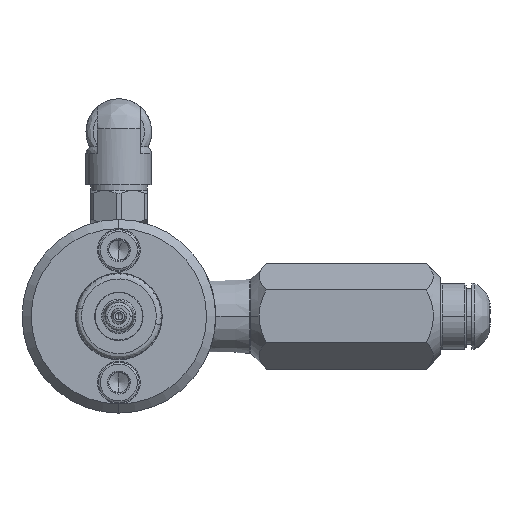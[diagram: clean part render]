
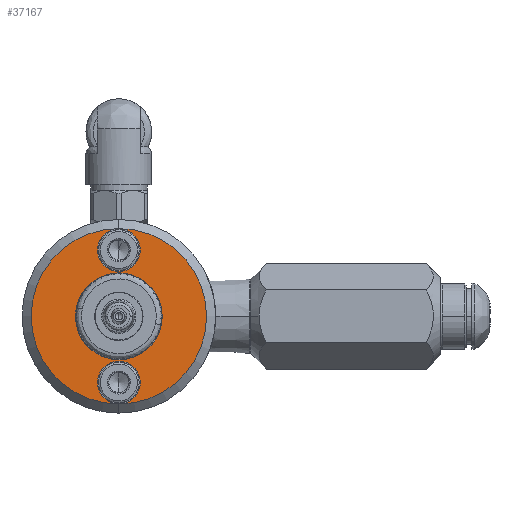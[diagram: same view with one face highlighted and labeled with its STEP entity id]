
A CAD part, front view. The second image highlights one B-rep face of the part: STEP entity #37167.
In plain terms, the highlighted planar face has unit normal (0, -1, 0).
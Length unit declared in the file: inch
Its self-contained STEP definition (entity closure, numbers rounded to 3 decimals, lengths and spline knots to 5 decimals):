
#1439 = CARTESIAN_POINT ( 'NONE',  ( 0., 0.315, 0. ) ) ;
#2063 = EDGE_CURVE ( 'NONE', #3683, #7874, #29381, .T. ) ;
#2823 = EDGE_CURVE ( 'NONE', #52760, #37118, #61757, .T. ) ;
#3683 = VERTEX_POINT ( 'NONE', #10672 ) ;
#4853 = CARTESIAN_POINT ( 'NONE',  ( 0., 0.315, 0. ) ) ;
#4913 = CARTESIAN_POINT ( 'NONE',  ( 0., 0.315, -0.48 ) ) ;
#5255 = CARTESIAN_POINT ( 'NONE',  ( 0., 0.315, 0.3625 ) ) ;
#5444 = ORIENTED_EDGE ( 'NONE', *, *, #49024, .T. ) ;
#6636 = EDGE_CURVE ( 'NONE', #45792, #42086, #31703, .T. ) ;
#7106 = CIRCLE ( 'NONE', #24997, 0.2375 ) ;
#7874 = VERTEX_POINT ( 'NONE', #44579 ) ;
#8700 = AXIS2_PLACEMENT_3D ( 'NONE', #44623, #30111, #34290 ) ;
#9418 = FACE_BOUND ( 'NONE', #24425, .T. ) ;
#10672 = CARTESIAN_POINT ( 'NONE',  ( 0., 0.315, 0.4795 ) ) ;
#11951 = ORIENTED_EDGE ( 'NONE', *, *, #27714, .T. ) ;
#12255 = CARTESIAN_POINT ( 'NONE',  ( 0., 0.315, -0.2375 ) ) ;
#12791 = VERTEX_POINT ( 'NONE', #14147 ) ;
#14147 = CARTESIAN_POINT ( 'NONE',  ( 0., 0.315, 0.48 ) ) ;
#14736 = EDGE_CURVE ( 'NONE', #7874, #3683, #59312, .T. ) ;
#16040 = CARTESIAN_POINT ( 'NONE',  ( 0., 0.315, 0.3625 ) ) ;
#16216 = CARTESIAN_POINT ( 'NONE',  ( 0., 0.315, 0.2375 ) ) ;
#18052 = EDGE_CURVE ( 'NONE', #37118, #52760, #7106, .T. ) ;
#18673 = AXIS2_PLACEMENT_3D ( 'NONE', #61658, #41249, #26748 ) ;
#18869 = EDGE_LOOP ( 'NONE', ( #36018, #38205 ) ) ;
#19906 = DIRECTION ( 'NONE',  ( 0., 0., -1. ) ) ;
#20755 = DIRECTION ( 'NONE',  ( 0., -1., 0. ) ) ;
#21452 = DIRECTION ( 'NONE',  ( 0., 1., 0. ) ) ;
#23368 = CIRCLE ( 'NONE', #58171, 0.117 ) ;
#24425 = EDGE_LOOP ( 'NONE', ( #34392, #44886 ) ) ;
#24997 = AXIS2_PLACEMENT_3D ( 'NONE', #34874, #44557, #19906 ) ;
#26285 = FACE_OUTER_BOUND ( 'NONE', #38025, .T. ) ;
#26748 = DIRECTION ( 'NONE',  ( 1., 0., 0. ) ) ;
#27188 = PLANE ( 'NONE',  #18673 ) ;
#27714 = EDGE_CURVE ( 'NONE', #12791, #46796, #42081, .T. ) ;
#28573 = AXIS2_PLACEMENT_3D ( 'NONE', #41964, #47094, #31991 ) ;
#28759 = CIRCLE ( 'NONE', #59419, 0.48 ) ;
#29381 = CIRCLE ( 'NONE', #50706, 0.117 ) ;
#30111 = DIRECTION ( 'NONE',  ( 0., -1., 0. ) ) ;
#30392 = CARTESIAN_POINT ( 'NONE',  ( 0., 0.315, -0.4795 ) ) ;
#30714 = DIRECTION ( 'NONE',  ( 0., 1., 0. ) ) ;
#31703 = CIRCLE ( 'NONE', #28573, 0.117 ) ;
#31849 = CARTESIAN_POINT ( 'NONE',  ( 0., 0.315, -0.2455 ) ) ;
#31991 = DIRECTION ( 'NONE',  ( 0., 0., -1. ) ) ;
#34290 = DIRECTION ( 'NONE',  ( 0., 0., 1. ) ) ;
#34392 = ORIENTED_EDGE ( 'NONE', *, *, #18052, .T. ) ;
#34874 = CARTESIAN_POINT ( 'NONE',  ( 0., 0.315, 0. ) ) ;
#35723 = DIRECTION ( 'NONE',  ( 0., 0., -1. ) ) ;
#36018 = ORIENTED_EDGE ( 'NONE', *, *, #14736, .T. ) ;
#37118 = VERTEX_POINT ( 'NONE', #12255 ) ;
#37167 = ADVANCED_FACE ( 'NONE', ( #9418, #57146, #49468, #26285 ), #27188, .T. ) ;
#37813 = ORIENTED_EDGE ( 'NONE', *, *, #49041, .T. ) ;
#38025 = EDGE_LOOP ( 'NONE', ( #11951, #5444 ) ) ;
#38205 = ORIENTED_EDGE ( 'NONE', *, *, #2063, .T. ) ;
#39626 = DIRECTION ( 'NONE',  ( 0., 1., 0. ) ) ;
#39817 = DIRECTION ( 'NONE',  ( 0., 1., 0. ) ) ;
#40544 = DIRECTION ( 'NONE',  ( 0., 0., -1. ) ) ;
#41249 = DIRECTION ( 'NONE',  ( 0., -1., 0. ) ) ;
#41964 = CARTESIAN_POINT ( 'NONE',  ( 0., 0.315, -0.3625 ) ) ;
#42081 = CIRCLE ( 'NONE', #8700, 0.48 ) ;
#42086 = VERTEX_POINT ( 'NONE', #30392 ) ;
#44557 = DIRECTION ( 'NONE',  ( 0., 1., 0. ) ) ;
#44579 = CARTESIAN_POINT ( 'NONE',  ( 0., 0.315, 0.2455 ) ) ;
#44623 = CARTESIAN_POINT ( 'NONE',  ( 0., 0.315, 0. ) ) ;
#44745 = DIRECTION ( 'NONE',  ( 0., 0., -1. ) ) ;
#44886 = ORIENTED_EDGE ( 'NONE', *, *, #2823, .T. ) ;
#45428 = DIRECTION ( 'NONE',  ( 0., 0., 1. ) ) ;
#45792 = VERTEX_POINT ( 'NONE', #31849 ) ;
#46796 = VERTEX_POINT ( 'NONE', #4913 ) ;
#47094 = DIRECTION ( 'NONE',  ( 0., 1., 0. ) ) ;
#49024 = EDGE_CURVE ( 'NONE', #46796, #12791, #28759, .T. ) ;
#49041 = EDGE_CURVE ( 'NONE', #42086, #45792, #23368, .T. ) ;
#49468 = FACE_BOUND ( 'NONE', #59405, .T. ) ;
#49513 = AXIS2_PLACEMENT_3D ( 'NONE', #4853, #39626, #44745 ) ;
#49811 = ORIENTED_EDGE ( 'NONE', *, *, #6636, .T. ) ;
#50706 = AXIS2_PLACEMENT_3D ( 'NONE', #5255, #39817, #63895 ) ;
#52760 = VERTEX_POINT ( 'NONE', #16216 ) ;
#57146 = FACE_BOUND ( 'NONE', #18869, .T. ) ;
#58171 = AXIS2_PLACEMENT_3D ( 'NONE', #60239, #30714, #35723 ) ;
#59312 = CIRCLE ( 'NONE', #61630, 0.117 ) ;
#59405 = EDGE_LOOP ( 'NONE', ( #37813, #49811 ) ) ;
#59419 = AXIS2_PLACEMENT_3D ( 'NONE', #1439, #20755, #45428 ) ;
#60239 = CARTESIAN_POINT ( 'NONE',  ( 0., 0.315, -0.3625 ) ) ;
#61630 = AXIS2_PLACEMENT_3D ( 'NONE', #16040, #21452, #40544 ) ;
#61658 = CARTESIAN_POINT ( 'NONE',  ( -0.48576, 0.315, -0.48576 ) ) ;
#61757 = CIRCLE ( 'NONE', #49513, 0.2375 ) ;
#63895 = DIRECTION ( 'NONE',  ( 0., 0., -1. ) ) ;
